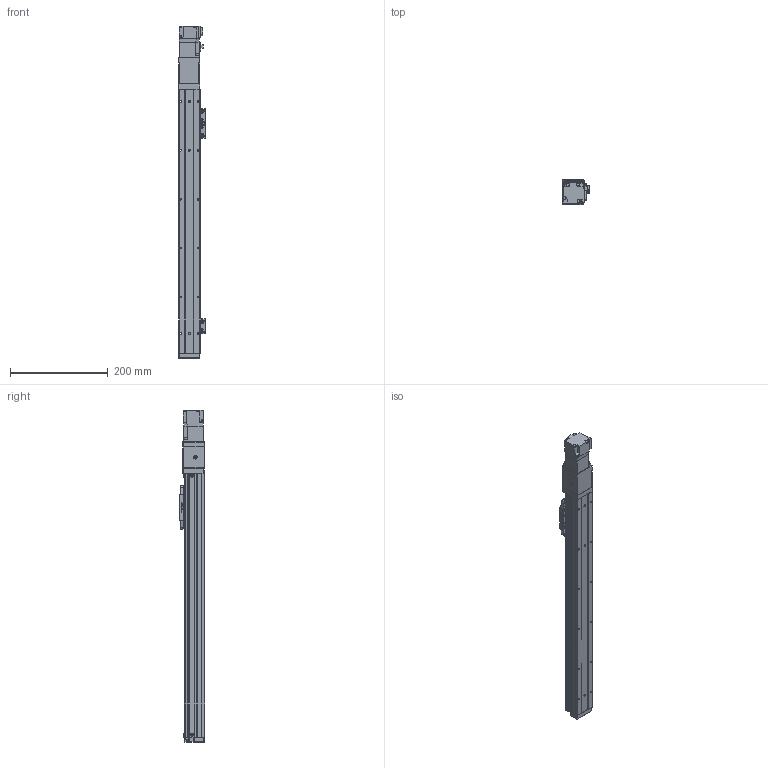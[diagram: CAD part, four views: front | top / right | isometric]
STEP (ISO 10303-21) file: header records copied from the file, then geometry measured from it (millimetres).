
FILE_DESCRIPTION (( 'STEP AP214' ), '1' );
FILE_NAME ('RGH4-XX-400-E-M05-C4.step', '2025-10-28T06:12:51', ( 'Microsoft' ), ( 'Microsoft' ), 'SwSTEP 2.0', 'SolidWorks 2018', '' );
FILE_SCHEMA (( 'AUTOMOTIVE_DESIGN' ));
Length unit declared in the file: millimetre
Products named in the file (1): RGH4-XX-400-E-M05-C4
Bounding box: 55.2 x 52 x 679.4 mm (x, y, z)
Volume: 1065739.5 mm3; surface area: 206245.2 mm2
Topology: 51 solids, 51 shells, 1884 faces, 4412 edges, 2716 vertices
Faces by surface type: plane 1026, cylinder 461, cone 257, torus 132, sphere 8
Entity records: 75302 total; most frequent: CARTESIAN_POINT 9965, DIRECTION 9492, ORIENTED_EDGE 8752, EDGE_CURVE 4376, AXIS2_PLACEMENT_3D 3313, VECTOR 2866, LINE 2866, VERTEX_POINT 2712
